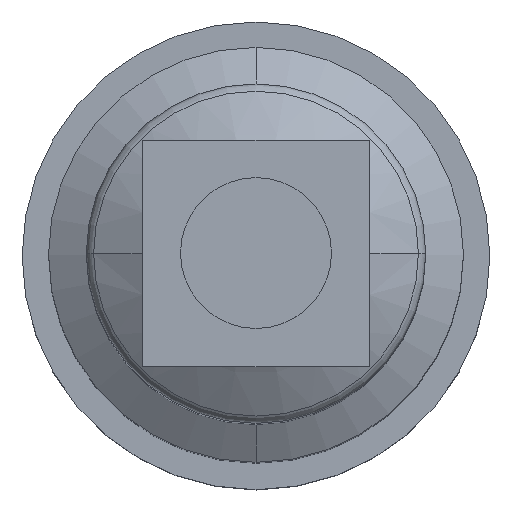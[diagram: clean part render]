
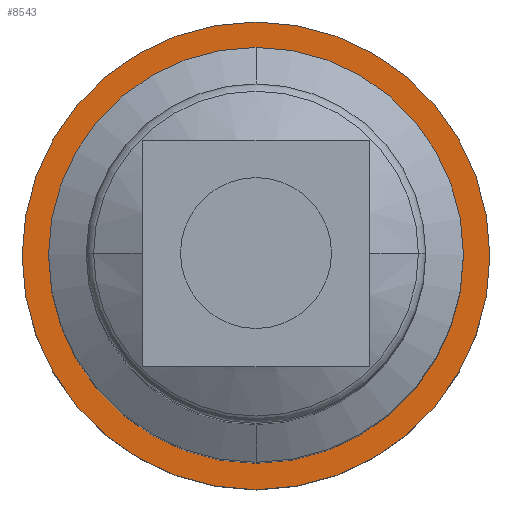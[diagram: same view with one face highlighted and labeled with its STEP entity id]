
A CAD part, top view. The second image highlights one B-rep face of the part: STEP entity #8543.
In plain terms, the highlighted planar face has unit normal (0, 0, 1).
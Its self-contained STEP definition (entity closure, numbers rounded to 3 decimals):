
#213 = DIRECTION ( 'NONE',  ( 0., -1., 0. ) ) ;
#603 = CARTESIAN_POINT ( 'NONE',  ( 0., 31., 35. ) ) ;
#1408 = DIRECTION ( 'NONE',  ( 0., 1., 0. ) ) ;
#1447 = ORIENTED_EDGE ( 'NONE', *, *, #5896, .T. ) ;
#1536 = EDGE_CURVE ( 'NONE', #5731, #3209, #5015, .T. ) ;
#1719 = DIRECTION ( 'NONE',  ( 0., 0., -1. ) ) ;
#1803 = CARTESIAN_POINT ( 'NONE',  ( 0., -31., 35. ) ) ;
#1828 = AXIS2_PLACEMENT_3D ( 'NONE', #6644, #4427, #213 ) ;
#1835 = DIRECTION ( 'NONE',  ( 0., 1., 0. ) ) ;
#2250 = AXIS2_PLACEMENT_3D ( 'NONE', #3491, #6672, #4509 ) ;
#2669 = DIRECTION ( 'NONE',  ( 0., 1., 0. ) ) ;
#3209 = VERTEX_POINT ( 'NONE', #9788 ) ;
#3491 = CARTESIAN_POINT ( 'NONE',  ( 0., 0., 35. ) ) ;
#3660 = CARTESIAN_POINT ( 'NONE',  ( 0., 0., 35. ) ) ;
#4427 = DIRECTION ( 'NONE',  ( 0., 0., 1. ) ) ;
#4509 = DIRECTION ( 'NONE',  ( 0., 1., 0. ) ) ;
#4796 = AXIS2_PLACEMENT_3D ( 'NONE', #5858, #1719, #2669 ) ;
#4883 = ORIENTED_EDGE ( 'NONE', *, *, #6716, .F. ) ;
#5015 = CIRCLE ( 'NONE', #4796, 27.5 ) ;
#5636 = PLANE ( 'NONE',  #1828 ) ;
#5731 = VERTEX_POINT ( 'NONE', #9574 ) ;
#5858 = CARTESIAN_POINT ( 'NONE',  ( 0., 0., 35. ) ) ;
#5896 = EDGE_CURVE ( 'NONE', #3209, #5731, #13467, .T. ) ;
#6330 = VERTEX_POINT ( 'NONE', #1803 ) ;
#6644 = CARTESIAN_POINT ( 'NONE',  ( 0., 27.5, 35. ) ) ;
#6672 = DIRECTION ( 'NONE',  ( 0., 0., -1. ) ) ;
#6716 = EDGE_CURVE ( 'NONE', #6933, #6330, #13758, .T. ) ;
#6933 = VERTEX_POINT ( 'NONE', #603 ) ;
#7100 = CARTESIAN_POINT ( 'NONE',  ( 0., 0., 35. ) ) ;
#7594 = FACE_OUTER_BOUND ( 'NONE', #9736, .T. ) ;
#7730 = EDGE_LOOP ( 'NONE', ( #1447, #13769 ) ) ;
#8322 = EDGE_CURVE ( 'NONE', #6330, #6933, #12741, .T. ) ;
#8543 = ADVANCED_FACE ( 'NONE', ( #10076, #7594 ), #5636, .T. ) ;
#9574 = CARTESIAN_POINT ( 'NONE',  ( 0., -27.5, 35. ) ) ;
#9736 = EDGE_LOOP ( 'NONE', ( #4883, #10366 ) ) ;
#9788 = CARTESIAN_POINT ( 'NONE',  ( 0., 27.5, 35. ) ) ;
#10076 = FACE_BOUND ( 'NONE', #7730, .T. ) ;
#10183 = AXIS2_PLACEMENT_3D ( 'NONE', #7100, #12367, #1835 ) ;
#10366 = ORIENTED_EDGE ( 'NONE', *, *, #8322, .F. ) ;
#11930 = AXIS2_PLACEMENT_3D ( 'NONE', #3660, #12087, #1408 ) ;
#12087 = DIRECTION ( 'NONE',  ( 0., 0., -1. ) ) ;
#12367 = DIRECTION ( 'NONE',  ( 0., 0., -1. ) ) ;
#12741 = CIRCLE ( 'NONE', #10183, 31. ) ;
#13467 = CIRCLE ( 'NONE', #11930, 27.5 ) ;
#13758 = CIRCLE ( 'NONE', #2250, 31. ) ;
#13769 = ORIENTED_EDGE ( 'NONE', *, *, #1536, .T. ) ;
